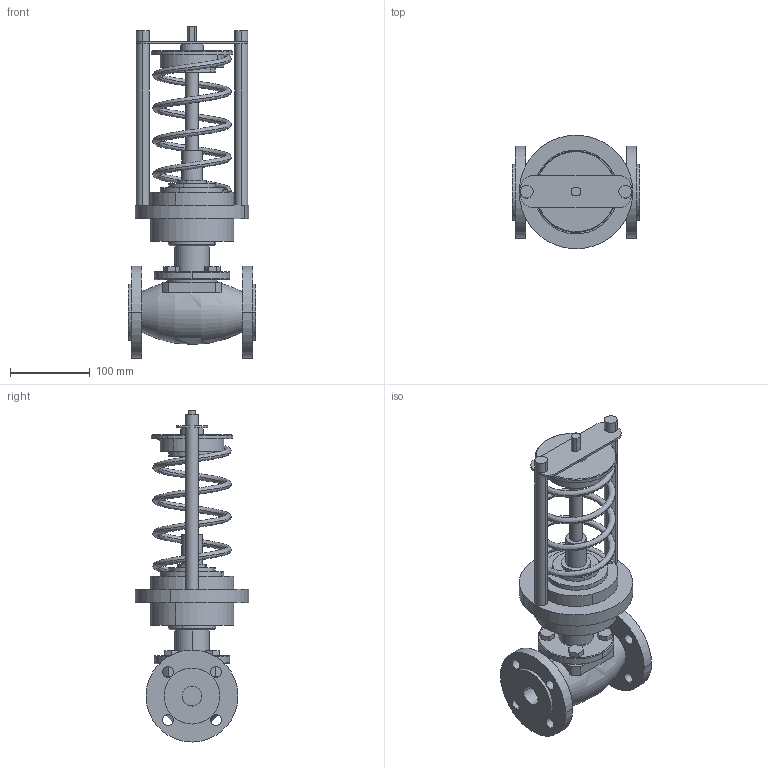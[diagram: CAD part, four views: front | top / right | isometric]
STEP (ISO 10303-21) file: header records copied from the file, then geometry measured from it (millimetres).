
FILE_DESCRIPTION (( 'STEP AP214' ), '1' );
FILE_NAME ('RDT, RDT-B DN-25.stp', '2025-12-12T05:46:29', ( '' ), ( '' ), 'SwSTEP 2.0', 'SolidWorks 2023', '' );
FILE_SCHEMA (( 'AUTOMOTIVE_DESIGN' ));
Length unit declared in the file: millimetre
Products named in the file (4): RDT___ DN-15-50,.stp; RDT, RDT-B DN-25; RDT, RDT-B DN-25.stp; RDT DN-25(______).stp
Assembly tree (3 placements, depth 3):
  RDT, RDT-B DN-25
    RDT, RDT-B DN-25.stp
      RDT___ DN-15-50,.stp
      RDT DN-25(______).stp
Bounding box: 160 x 141.86 x 415 mm (x, y, z)
Volume: 1996183.4 mm3; surface area: 253537.6 mm2
Topology: 2 solids, 2 shells, 173 faces, 417 edges, 275 vertices
Faces by surface type: cylinder 80, plane 78, cone 10, bspline 3, torus 2
Entity records: 18008 total; most frequent: CARTESIAN_POINT 13655, DIRECTION 944, ORIENTED_EDGE 834, EDGE_CURVE 417, AXIS2_PLACEMENT_3D 366, VERTEX_POINT 275, EDGE_LOOP 222, VECTOR 212
